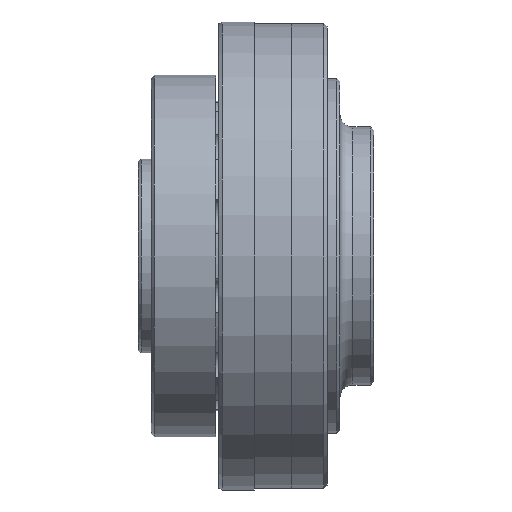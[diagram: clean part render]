
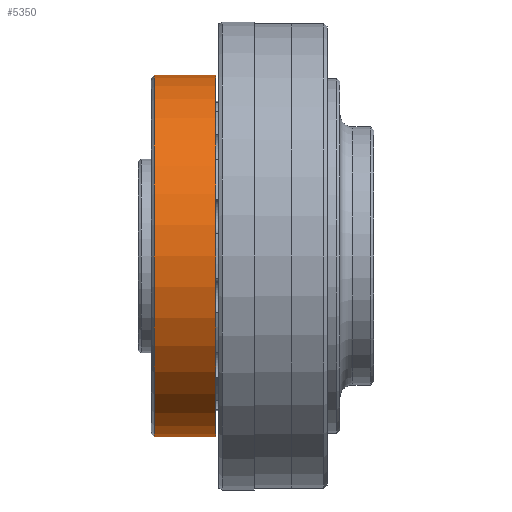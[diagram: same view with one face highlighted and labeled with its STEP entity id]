
A CAD part, front view. The second image highlights one B-rep face of the part: STEP entity #5350.
In plain terms, the highlighted cylindrical face has radius 56 mm (diameter 112 mm), a full revolution.
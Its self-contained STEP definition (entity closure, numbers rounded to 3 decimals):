
#704=FACE_OUTER_BOUND('',#1132,.T.);
#1132=EDGE_LOOP('',(#4581,#4582,#4583,#4584,#4585,#4586));
#1396=LINE('',#9821,#1622);
#1622=VECTOR('',#8096,56.);
#2057=CIRCLE('',#6368,56.);
#2058=CIRCLE('',#6369,56.);
#2096=CIRCLE('',#6409,56.);
#2097=CIRCLE('',#6410,56.);
#2593=VERTEX_POINT('',#9736);
#2594=VERTEX_POINT('',#9737);
#2632=VERTEX_POINT('',#9817);
#2633=VERTEX_POINT('',#9818);
#3279=EDGE_CURVE('',#2593,#2594,#2057,.T.);
#3280=EDGE_CURVE('',#2594,#2593,#2058,.T.);
#3319=EDGE_CURVE('',#2632,#2633,#2096,.T.);
#3320=EDGE_CURVE('',#2633,#2632,#2097,.T.);
#3321=EDGE_CURVE('',#2633,#2594,#1396,.T.);
#4581=ORIENTED_EDGE('',*,*,#3319,.F.);
#4582=ORIENTED_EDGE('',*,*,#3320,.F.);
#4583=ORIENTED_EDGE('',*,*,#3321,.T.);
#4584=ORIENTED_EDGE('',*,*,#3279,.F.);
#4585=ORIENTED_EDGE('',*,*,#3280,.F.);
#4586=ORIENTED_EDGE('',*,*,#3321,.F.);
#5083=CYLINDRICAL_SURFACE('',#6408,56.);
#5350=ADVANCED_FACE('',(#704),#5083,.T.);
#6368=AXIS2_PLACEMENT_3D('',#9738,#8009,#8010);
#6369=AXIS2_PLACEMENT_3D('',#9739,#8011,#8012);
#6408=AXIS2_PLACEMENT_3D('',#9816,#8090,#8091);
#6409=AXIS2_PLACEMENT_3D('',#9819,#8092,#8093);
#6410=AXIS2_PLACEMENT_3D('',#9820,#8094,#8095);
#8009=DIRECTION('center_axis',(-1.,0.,0.));
#8010=DIRECTION('ref_axis',(0.,-1.,0.));
#8011=DIRECTION('center_axis',(-1.,0.,0.));
#8012=DIRECTION('ref_axis',(0.,-1.,0.));
#8090=DIRECTION('center_axis',(1.,0.,0.));
#8091=DIRECTION('ref_axis',(0.,1.,0.));
#8092=DIRECTION('center_axis',(1.,0.,0.));
#8093=DIRECTION('ref_axis',(0.,1.,0.));
#8094=DIRECTION('center_axis',(1.,0.,0.));
#8095=DIRECTION('ref_axis',(0.,1.,0.));
#8096=DIRECTION('',(-1.,0.,0.));
#9736=CARTESIAN_POINT('',(5.,56.,0.));
#9737=CARTESIAN_POINT('',(5.,-56.,0.));
#9738=CARTESIAN_POINT('Origin',(5.,0.,0.));
#9739=CARTESIAN_POINT('Origin',(5.,0.,0.));
#9816=CARTESIAN_POINT('Origin',(14.,0.,0.));
#9817=CARTESIAN_POINT('',(24.,56.,0.));
#9818=CARTESIAN_POINT('',(24.,-56.,0.));
#9819=CARTESIAN_POINT('Origin',(24.,0.,0.));
#9820=CARTESIAN_POINT('Origin',(24.,0.,0.));
#9821=CARTESIAN_POINT('',(14.,-56.,0.));
